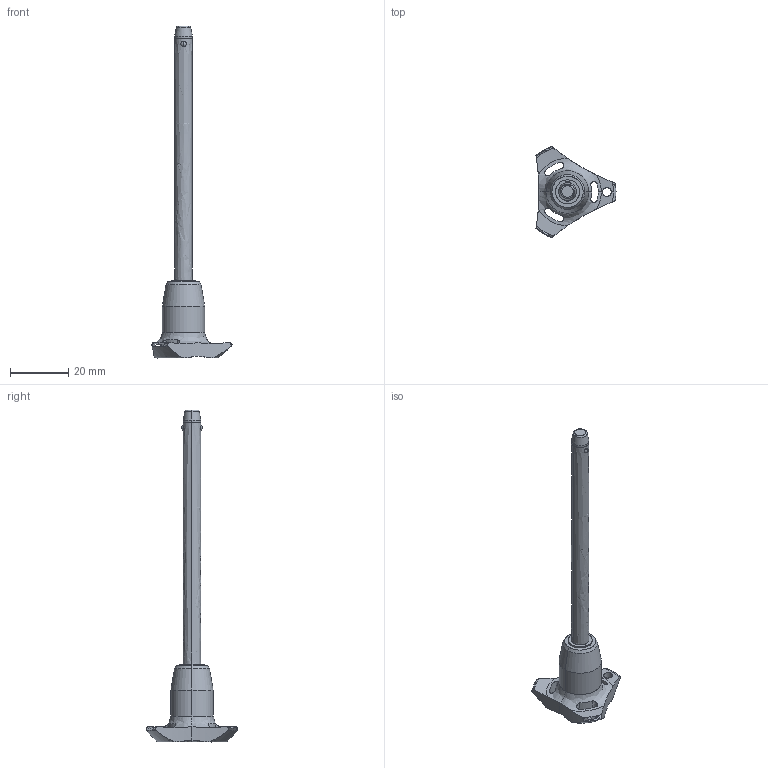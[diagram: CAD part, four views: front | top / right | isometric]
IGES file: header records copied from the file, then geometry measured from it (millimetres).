
Start section: SolidWorks IGES file using analytic representation for surfaces
Global section: file name: C:\Users\ianosborn\Desktop\QR1736_v2\QR1736_v2_20251115_IGES\QR1736.M06-080-T.igs; native system: SolidWorks 2019; preprocessor: SolidWorks 2019; author: IanOsborn; date: 251113.114731; units: millimetre
Bounding box: 27.4 x 31.31 x 113.7 mm (x, y, z)
Surface area: 4061 mm2 (no closed solid volume)
Topology: 0 solids, 0 shells, 69 faces, 1323 edges, 1304 vertices
Faces by surface type: revolution 52, bspline 17
